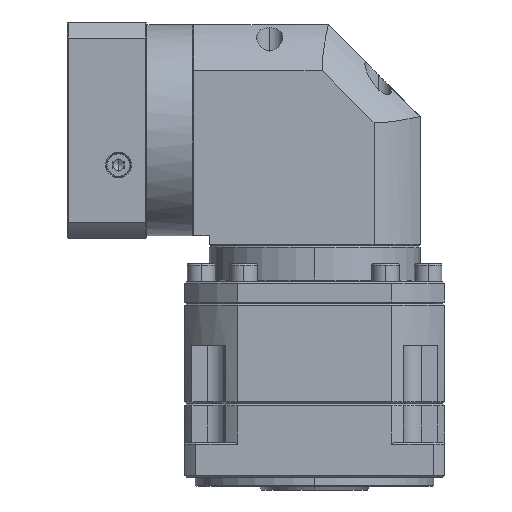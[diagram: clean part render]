
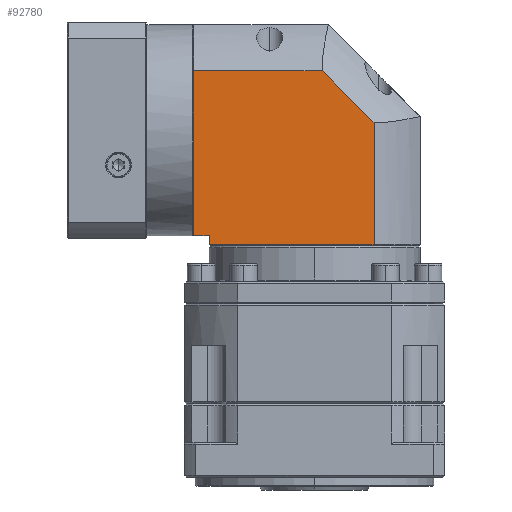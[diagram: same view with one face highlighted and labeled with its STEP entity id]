
A CAD part, left-side view. The second image highlights one B-rep face of the part: STEP entity #92780.
In plain terms, the highlighted planar face has unit normal (-1, 0, 0).
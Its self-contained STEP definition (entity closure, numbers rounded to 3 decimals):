
#1362 = CARTESIAN_POINT ( 'NONE',  ( -221.117, 111.997, 93.258 ) ) ;
#1871 = CARTESIAN_POINT ( 'NONE',  ( -221.117, 50.436, 68.158 ) ) ;
#12670 = ORIENTED_EDGE ( 'NONE', *, *, #107345, .T. ) ;
#19461 = CARTESIAN_POINT ( 'NONE',  ( -221.117, -3.003, -33.242 ) ) ;
#19916 = DIRECTION ( 'NONE',  ( 0., -1., 0. ) ) ;
#20280 = CARTESIAN_POINT ( 'NONE',  ( -221.117, 120.397, -21.742 ) ) ;
#21380 = CARTESIAN_POINT ( 'NONE',  ( -221.117, 22.098, -33.242 ) ) ;
#28582 = AXIS2_PLACEMENT_3D ( 'NONE', #19461, #107309, #19916 ) ;
#29871 = EDGE_CURVE ( 'NONE', #117256, #101484, #67802, .T. ) ;
#30739 = VERTEX_POINT ( 'NONE', #1871 ) ;
#30892 = ORIENTED_EDGE ( 'NONE', *, *, #133219, .F. ) ;
#33797 = CARTESIAN_POINT ( 'NONE',  ( -221.117, -3.003, 68.158 ) ) ;
#37327 = VERTEX_POINT ( 'NONE', #84948 ) ;
#38618 = ORIENTED_EDGE ( 'NONE', *, *, #116681, .F. ) ;
#39310 = ORIENTED_EDGE ( 'NONE', *, *, #76742, .F. ) ;
#40399 = LINE ( 'NONE', #77496, #103317 ) ;
#41309 = CARTESIAN_POINT ( 'NONE',  ( -221.117, 120.397, 68.158 ) ) ;
#47471 = EDGE_CURVE ( 'NONE', #101484, #30739, #79224, .T. ) ;
#47997 = VERTEX_POINT ( 'NONE', #137907 ) ;
#52495 = VECTOR ( 'NONE', #78304, 1000. ) ;
#53608 = CARTESIAN_POINT ( 'NONE',  ( -221.117, -3.003, -26.742 ) ) ;
#54617 = CARTESIAN_POINT ( 'NONE',  ( -221.117, 22.098, -26.742 ) ) ;
#55926 = VECTOR ( 'NONE', #136466, 1000. ) ;
#57581 = DIRECTION ( 'NONE',  ( 0., -0.707, -0.707 ) ) ;
#58050 = CARTESIAN_POINT ( 'NONE',  ( -221.117, 50.436, 68.158 ) ) ;
#64153 = PLANE ( 'NONE',  #28582 ) ;
#67802 = LINE ( 'NONE', #114640, #55926 ) ;
#75507 = DIRECTION ( 'NONE',  ( 0., 1., 0. ) ) ;
#76742 = EDGE_CURVE ( 'NONE', #123801, #118428, #118478, .T. ) ;
#77496 = CARTESIAN_POINT ( 'NONE',  ( -221.117, 111.997, -21.742 ) ) ;
#78304 = DIRECTION ( 'NONE',  ( 0., 0., -1. ) ) ;
#78451 = DIRECTION ( 'NONE',  ( 0., -1., 0. ) ) ;
#79224 = LINE ( 'NONE', #33797, #108048 ) ;
#79589 = LINE ( 'NONE', #58050, #127009 ) ;
#82215 = CARTESIAN_POINT ( 'NONE',  ( -221.117, 111.997, -26.742 ) ) ;
#84820 = LINE ( 'NONE', #1362, #52495 ) ;
#84948 = CARTESIAN_POINT ( 'NONE',  ( -221.117, 22.098, 39.82 ) ) ;
#91385 = FACE_OUTER_BOUND ( 'NONE', #98755, .T. ) ;
#92780 = ADVANCED_FACE ( 'NONE', ( #91385 ), #64153, .F. ) ;
#95711 = LINE ( 'NONE', #21380, #129530 ) ;
#97664 = ORIENTED_EDGE ( 'NONE', *, *, #47471, .F. ) ;
#98755 = EDGE_LOOP ( 'NONE', ( #38618, #30892, #97664, #106114, #124889, #12670, #39310 ) ) ;
#101484 = VERTEX_POINT ( 'NONE', #41309 ) ;
#103317 = VECTOR ( 'NONE', #109237, 1000. ) ;
#106114 = ORIENTED_EDGE ( 'NONE', *, *, #29871, .F. ) ;
#107309 = DIRECTION ( 'NONE',  ( 1., 0., 0. ) ) ;
#107345 = EDGE_CURVE ( 'NONE', #47997, #118428, #84820, .T. ) ;
#108048 = VECTOR ( 'NONE', #78451, 1000. ) ;
#109237 = DIRECTION ( 'NONE',  ( 0., -1., 0. ) ) ;
#114640 = CARTESIAN_POINT ( 'NONE',  ( -221.117, 120.397, -33.242 ) ) ;
#116681 = EDGE_CURVE ( 'NONE', #37327, #123801, #95711, .T. ) ;
#117256 = VERTEX_POINT ( 'NONE', #20280 ) ;
#118428 = VERTEX_POINT ( 'NONE', #82215 ) ;
#118478 = LINE ( 'NONE', #53608, #132156 ) ;
#123801 = VERTEX_POINT ( 'NONE', #54617 ) ;
#124889 = ORIENTED_EDGE ( 'NONE', *, *, #130466, .T. ) ;
#127009 = VECTOR ( 'NONE', #57581, 1000. ) ;
#129530 = VECTOR ( 'NONE', #140055, 1000. ) ;
#130466 = EDGE_CURVE ( 'NONE', #117256, #47997, #40399, .T. ) ;
#132156 = VECTOR ( 'NONE', #75507, 1000. ) ;
#133219 = EDGE_CURVE ( 'NONE', #30739, #37327, #79589, .T. ) ;
#136466 = DIRECTION ( 'NONE',  ( 0., 0., 1. ) ) ;
#137907 = CARTESIAN_POINT ( 'NONE',  ( -221.117, 111.997, -21.742 ) ) ;
#140055 = DIRECTION ( 'NONE',  ( 0., 0., -1. ) ) ;
